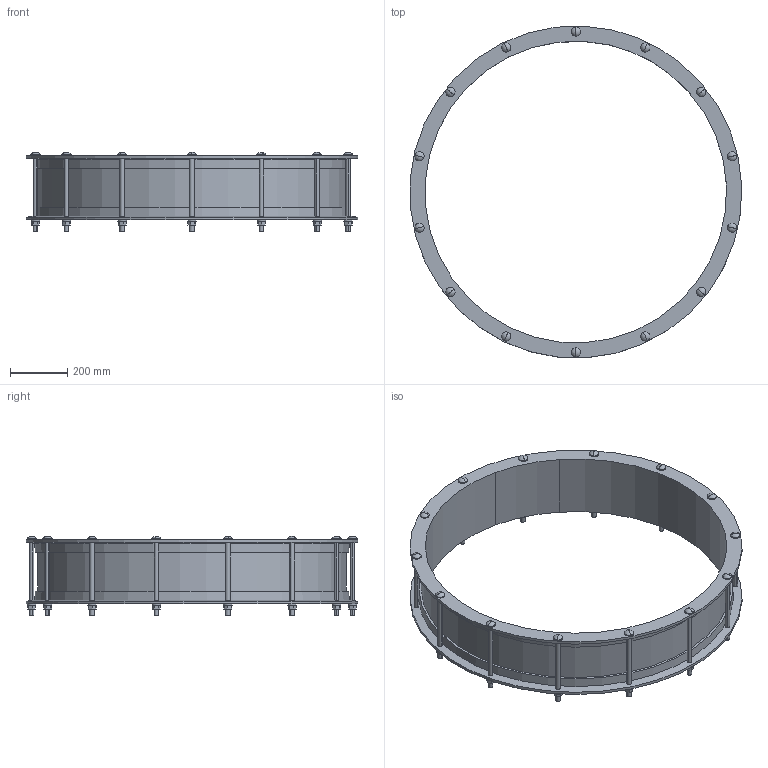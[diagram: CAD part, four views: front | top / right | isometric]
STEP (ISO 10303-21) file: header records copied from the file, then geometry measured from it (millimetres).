
FILE_DESCRIPTION((''),'2;1');
FILE_NAME('YF2_COUP_1048','2018-12-06T',('mfairey'),('Glynwed Pipe Systems'),'CREO PARAMETRIC BY PTC INC, 2016130','CREO PARAMETRIC BY PTC INC, 2016130','');
FILE_SCHEMA(('CONFIG_CONTROL_DESIGN'));
Length unit declared in the file: millimetre
Products named in the file (1): YF2_COUP_1048
Bounding box: 1153.73 x 1153.94 x 276 mm (x, y, z)
Volume: 16122303.4 mm3; surface area: 2297587.4 mm2
Topology: 1 solids, 1 shells, 286 faces, 684 edges, 430 vertices
Faces by surface type: plane 130, cylinder 120, sphere 28, cone 8
Entity records: 9358 total; most frequent: CARTESIAN_POINT 2660, DIRECTION 1392, ORIENTED_EDGE 1312, EDGE_CURVE 656, AXIS2_PLACEMENT_3D 506, VERTEX_POINT 430, VECTOR 380, LINE 380
